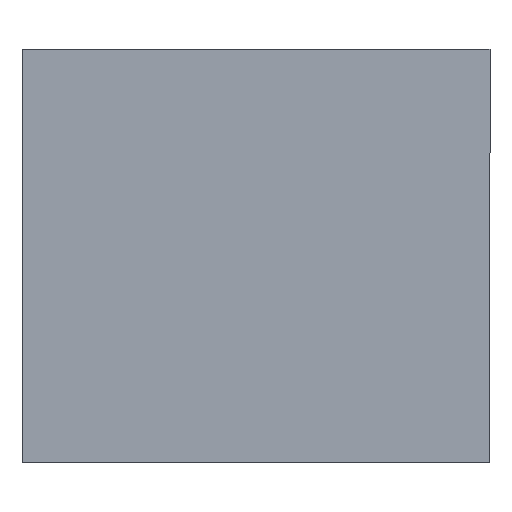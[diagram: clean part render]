
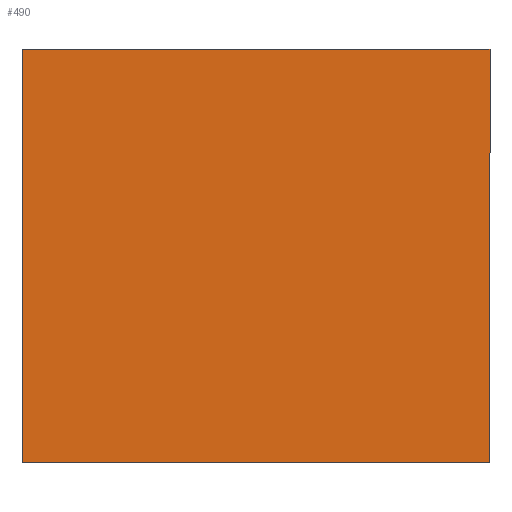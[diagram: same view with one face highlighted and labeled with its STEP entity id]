
A CAD part, front view. The second image highlights one B-rep face of the part: STEP entity #490.
In plain terms, the highlighted planar face has unit normal (0, -1, 0).
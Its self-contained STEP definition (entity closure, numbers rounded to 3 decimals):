
#12 = CARTESIAN_POINT ( 'NONE',  ( -19.558, -0.127, -17.272 ) ) ;
#39 = CARTESIAN_POINT ( 'NONE',  ( -19.558, -0.127, 17.272 ) ) ;
#48 = ORIENTED_EDGE ( 'NONE', *, *, #4454, .F. ) ;
#177 = DIRECTION ( 'NONE',  ( 0., 0., -1. ) ) ;
#223 = VECTOR ( 'NONE', #3920, 1000. ) ;
#226 = ORIENTED_EDGE ( 'NONE', *, *, #3004, .F. ) ;
#316 = DIRECTION ( 'NONE',  ( -1., 0., 0. ) ) ;
#490 = ADVANCED_FACE ( 'NONE', ( #2262 ), #1541, .F. ) ;
#589 = ORIENTED_EDGE ( 'NONE', *, *, #1909, .F. ) ;
#678 = LINE ( 'NONE', #3526, #3640 ) ;
#694 = VECTOR ( 'NONE', #1291, 1000. ) ;
#1195 = DIRECTION ( 'NONE',  ( 0., 0., 1. ) ) ;
#1291 = DIRECTION ( 'NONE',  ( 0., 0., 1. ) ) ;
#1505 = VERTEX_POINT ( 'NONE', #12 ) ;
#1541 = PLANE ( 'NONE',  #2286 ) ;
#1909 = EDGE_CURVE ( 'NONE', #2532, #4596, #3740, .T. ) ;
#1966 = CARTESIAN_POINT ( 'NONE',  ( 19.558, -0.127, -17.272 ) ) ;
#2129 = VECTOR ( 'NONE', #177, 1000. ) ;
#2217 = DIRECTION ( 'NONE',  ( 0., 1., 0. ) ) ;
#2262 = FACE_OUTER_BOUND ( 'NONE', #3794, .T. ) ;
#2286 = AXIS2_PLACEMENT_3D ( 'NONE', #4404, #2217, #1195 ) ;
#2532 = VERTEX_POINT ( 'NONE', #4555 ) ;
#2707 = VERTEX_POINT ( 'NONE', #39 ) ;
#3004 = EDGE_CURVE ( 'NONE', #4596, #1505, #678, .T. ) ;
#3405 = LINE ( 'NONE', #4480, #694 ) ;
#3521 = CARTESIAN_POINT ( 'NONE',  ( -19.558, -0.127, 17.272 ) ) ;
#3526 = CARTESIAN_POINT ( 'NONE',  ( -19.558, -0.127, -17.272 ) ) ;
#3640 = VECTOR ( 'NONE', #316, 1000. ) ;
#3740 = LINE ( 'NONE', #1966, #2129 ) ;
#3794 = EDGE_LOOP ( 'NONE', ( #48, #226, #589, #4289 ) ) ;
#3920 = DIRECTION ( 'NONE',  ( 1., 0., 0. ) ) ;
#3945 = LINE ( 'NONE', #3521, #223 ) ;
#4063 = EDGE_CURVE ( 'NONE', #2707, #2532, #3945, .T. ) ;
#4289 = ORIENTED_EDGE ( 'NONE', *, *, #4063, .F. ) ;
#4404 = CARTESIAN_POINT ( 'NONE',  ( -19.558, -0.127, 17.272 ) ) ;
#4454 = EDGE_CURVE ( 'NONE', #1505, #2707, #3405, .T. ) ;
#4477 = CARTESIAN_POINT ( 'NONE',  ( 19.558, -0.127, -17.272 ) ) ;
#4480 = CARTESIAN_POINT ( 'NONE',  ( -19.558, -0.127, -17.272 ) ) ;
#4555 = CARTESIAN_POINT ( 'NONE',  ( 19.558, -0.127, 17.272 ) ) ;
#4596 = VERTEX_POINT ( 'NONE', #4477 ) ;
